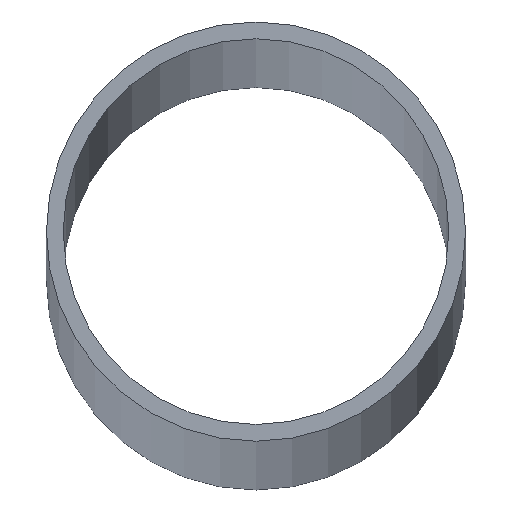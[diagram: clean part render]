
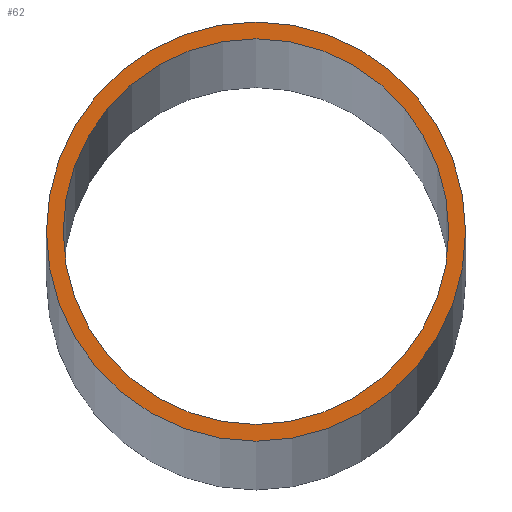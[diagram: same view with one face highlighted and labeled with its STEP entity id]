
A CAD part, top view. The second image highlights one B-rep face of the part: STEP entity #62.
In plain terms, the highlighted planar face has unit normal (0, 0, 1).
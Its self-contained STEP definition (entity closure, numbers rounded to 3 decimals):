
#15=PLANE('',#90);
#19=FACE_BOUND('',#31,.T.);
#23=FACE_OUTER_BOUND('',#30,.T.);
#30=EDGE_LOOP('',(#50));
#31=EDGE_LOOP('',(#51));
#32=CIRCLE('',#84,34.5);
#34=CIRCLE('',#87,37.5);
#36=VERTEX_POINT('',#111);
#38=VERTEX_POINT('',#116);
#40=EDGE_CURVE('',#36,#36,#32,.T.);
#42=EDGE_CURVE('',#38,#38,#34,.T.);
#50=ORIENTED_EDGE('',*,*,#42,.T.);
#51=ORIENTED_EDGE('',*,*,#40,.T.);
#62=ADVANCED_FACE('',(#23,#19),#15,.T.);
#84=AXIS2_PLACEMENT_3D('',#112,#95,#96);
#87=AXIS2_PLACEMENT_3D('',#117,#101,#102);
#90=AXIS2_PLACEMENT_3D('',#121,#107,#108);
#95=DIRECTION('center_axis',(0.,0.,-1.));
#96=DIRECTION('ref_axis',(-1.,0.,0.));
#101=DIRECTION('center_axis',(0.,0.,1.));
#102=DIRECTION('ref_axis',(-1.,0.,0.));
#107=DIRECTION('center_axis',(0.,0.,1.));
#108=DIRECTION('ref_axis',(1.,0.,0.));
#111=CARTESIAN_POINT('',(34.5,0.,5000.));
#112=CARTESIAN_POINT('Origin',(0.,0.,5000.));
#116=CARTESIAN_POINT('',(37.5,0.,5000.));
#117=CARTESIAN_POINT('Origin',(0.,0.,5000.));
#121=CARTESIAN_POINT('Origin',(0.,0.,
5000.));
